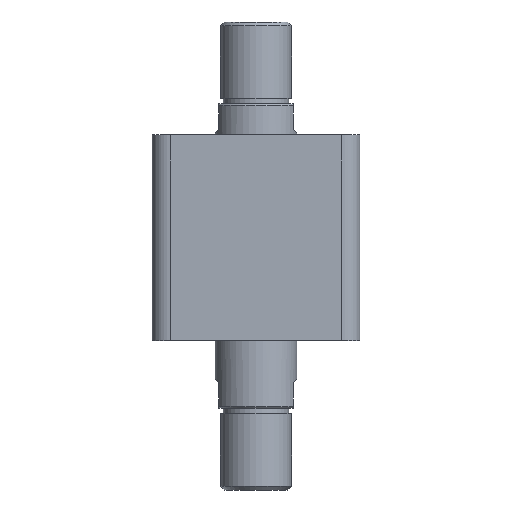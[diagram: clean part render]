
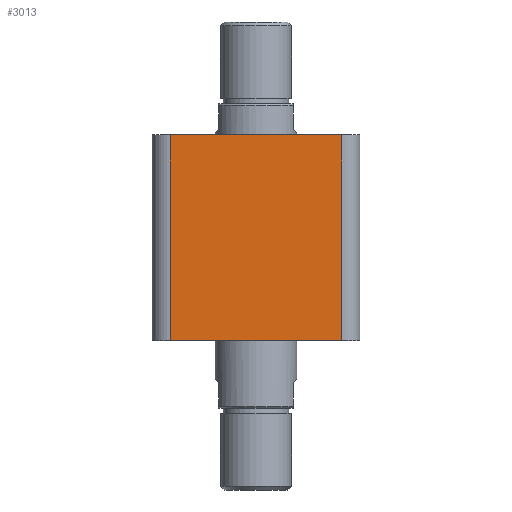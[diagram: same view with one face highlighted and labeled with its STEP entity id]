
A CAD part, front view. The second image highlights one B-rep face of the part: STEP entity #3013.
In plain terms, the highlighted planar face has unit normal (0, -1, 0).
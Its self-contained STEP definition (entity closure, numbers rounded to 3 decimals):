
#42 = DIRECTION ( 'NONE',  ( 0., 0., -1. ) ) ;
#43 = CARTESIAN_POINT ( 'NONE',  ( -47., -57., 113. ) ) ;
#81 = CARTESIAN_POINT ( 'NONE',  ( 47., -57., 113. ) ) ;
#82 = DIRECTION ( 'NONE',  ( 1., 0., 0. ) ) ;
#87 = CARTESIAN_POINT ( 'NONE',  ( -57., -57., 113. ) ) ;
#110 = VERTEX_POINT ( 'NONE', #1823 ) ;
#373 = EDGE_LOOP ( 'NONE', ( #3261, #3270, #3271, #3260 ) ) ;
#550 = LINE ( 'NONE', #43, #554 ) ;
#551 = LINE ( 'NONE', #87, #557 ) ;
#554 = VECTOR ( 'NONE', #42, 1000. ) ;
#556 = LINE ( 'NONE', #81, #559 ) ;
#557 = VECTOR ( 'NONE', #82, 1000. ) ;
#558 = LINE ( 'NONE', #823, #561 ) ;
#559 = VECTOR ( 'NONE', #829, 1000. ) ;
#561 = VECTOR ( 'NONE', #820, 1000. ) ;
#820 = DIRECTION ( 'NONE',  ( 1., 0., 0. ) ) ;
#823 = CARTESIAN_POINT ( 'NONE',  ( -57., -57., 0. ) ) ;
#829 = DIRECTION ( 'NONE',  ( 0., 0., 1. ) ) ;
#988 = FACE_OUTER_BOUND ( 'NONE', #373, .T. ) ;
#1370 = EDGE_CURVE ( 'NONE', #3393, #3284, #550, .T. ) ;
#1371 = EDGE_CURVE ( 'NONE', #3393, #3390, #551, .T. ) ;
#1372 = EDGE_CURVE ( 'NONE', #110, #3390, #556, .T. ) ;
#1373 = EDGE_CURVE ( 'NONE', #3284, #110, #558, .T. ) ;
#1656 = AXIS2_PLACEMENT_3D ( 'NONE', #1995, #1999, #2000 ) ;
#1823 = CARTESIAN_POINT ( 'NONE',  ( 47., -57., 0. ) ) ;
#1995 = CARTESIAN_POINT ( 'NONE',  ( -57., -57., 113. ) ) ;
#1997 = PLANE ( 'NONE',  #1656 ) ;
#1999 = DIRECTION ( 'NONE',  ( 0., 1., 0. ) ) ;
#2000 = DIRECTION ( 'NONE',  ( 0., 0., 1. ) ) ;
#2341 = CARTESIAN_POINT ( 'NONE',  ( -47., -57., 0. ) ) ;
#2387 = CARTESIAN_POINT ( 'NONE',  ( 47., -57., 113. ) ) ;
#2390 = CARTESIAN_POINT ( 'NONE',  ( -47., -57., 113. ) ) ;
#3013 = ADVANCED_FACE ( 'NONE', ( #988 ), #1997, .F. ) ;
#3260 = ORIENTED_EDGE ( 'NONE', *, *, #1370, .T. ) ;
#3261 = ORIENTED_EDGE ( 'NONE', *, *, #1373, .T. ) ;
#3270 = ORIENTED_EDGE ( 'NONE', *, *, #1372, .T. ) ;
#3271 = ORIENTED_EDGE ( 'NONE', *, *, #1371, .F. ) ;
#3284 = VERTEX_POINT ( 'NONE', #2341 ) ;
#3390 = VERTEX_POINT ( 'NONE', #2387 ) ;
#3393 = VERTEX_POINT ( 'NONE', #2390 ) ;
